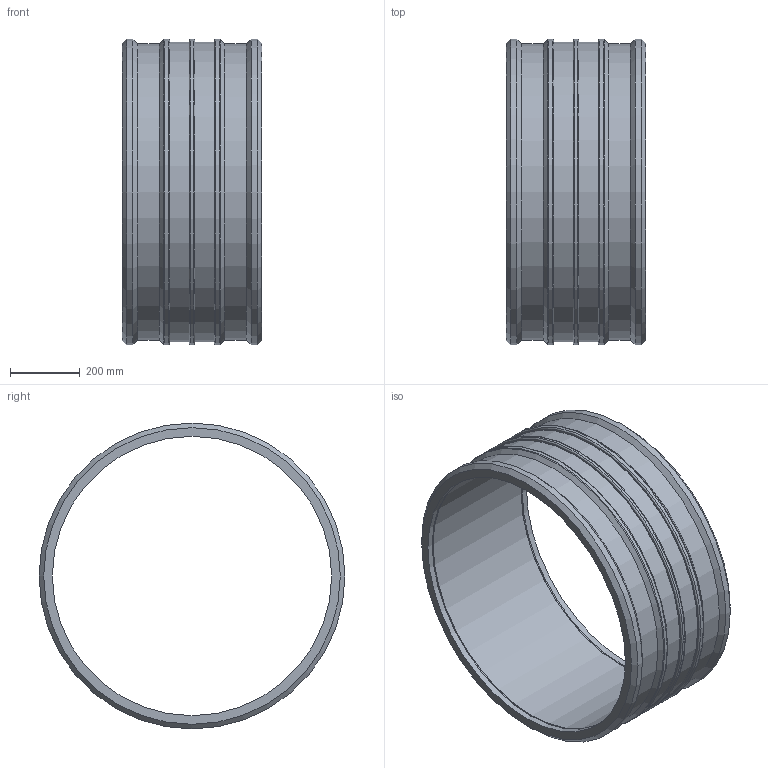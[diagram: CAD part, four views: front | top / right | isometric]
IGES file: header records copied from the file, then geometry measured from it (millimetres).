
Global section: file name: 4601S3800.ipt; native system: Autodesk Inventor 2015; preprocessor: unknown; author: KIM; date: 20190627.094250; units: millimetre
Bounding box: 400 x 876 x 876 mm (x, y, z)
Volume: 31398174.4 mm3; surface area: 2382733.7 mm2
Topology: 1 solids, 1 shells, 48 faces, 106 edges, 70 vertices
Faces by surface type: cylinder 15, plane 14, revolution 13, cone 6
Full cylindrical faces by diameter (mm): 4 x2, 849.72 x2, 858.48 x2, 876 x5
